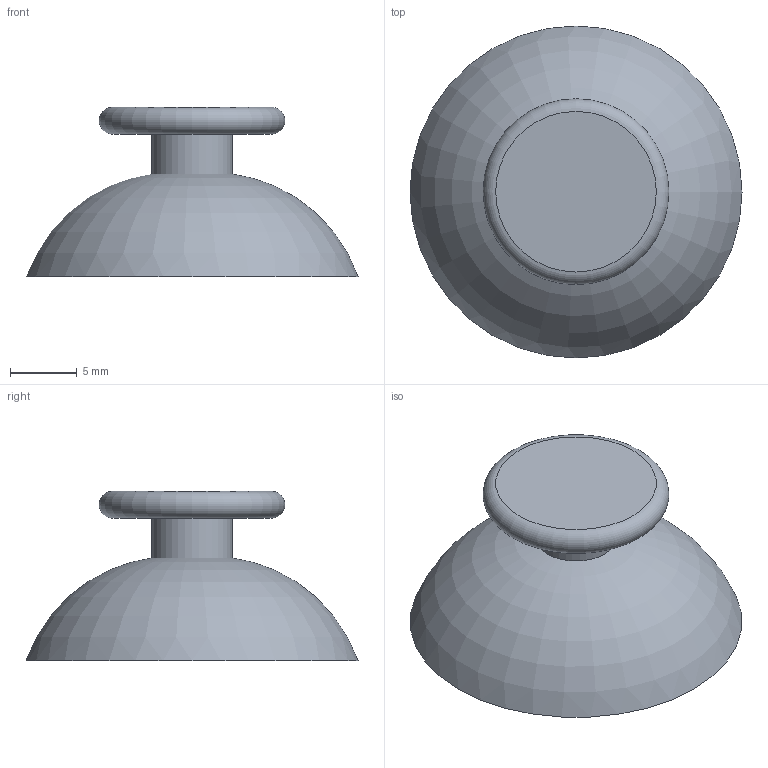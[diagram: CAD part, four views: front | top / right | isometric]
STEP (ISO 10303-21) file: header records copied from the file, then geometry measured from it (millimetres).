
FILE_DESCRIPTION(/* description */ ('STEP AP242 Edition 2','CAx-IF Rec.Pracs.---Representation and Presentation of Product Manufacturing Information (PMI)---4.0---2014-10-13','CAx-IF Rec.Pracs.---3D Tessellated Geometry---0.4---2014-09-14','2;1','CAx-IF Rec.Pracs.---User Defined Attributes---1.5---2016-08-15'),/* implementation_level */ '2;1');
FILE_NAME(/* name */ 'Controller - right joystick',/* time_stamp */ '2026-11-08T20:41:02Z',/* author */ (''),/* organization */ (''),/* preprocessor_version */ 'ST-DEVELOPER v20',/* originating_system */ 'ONSHAPE BY PTC INC, 1.223',/* authorisation */ ' ');
FILE_SCHEMA (('AP242_MANAGED_MODEL_BASED_3D_ENGINEERING_MIM_LF { 1 0 10303 442 3 1 4 }'));
Length unit declared in the file: metre
Products named in the file (1): right joystick
Bounding box: 24.8 x 24.8 x 12.66 mm (x, y, z)
Volume: 2653.1 mm3; surface area: 1606.9 mm2
Topology: 1 solids, 1 shells, 8 faces, 13 edges, 8 vertices
Faces by surface type: plane 3, torus 2, cylinder 2, cone 1
Full cylindrical faces by diameter (mm): 2.8 x1, 6 x1
Entity records: 180 total; most frequent: DIRECTION 32, CARTESIAN_POINT 24, AXIS2_PLACEMENT_3D 16, FACE_BOUND 15, ORIENTED_EDGE 14, EDGE_LOOP 14, VERTEX_POINT 8, ADVANCED_FACE 8
